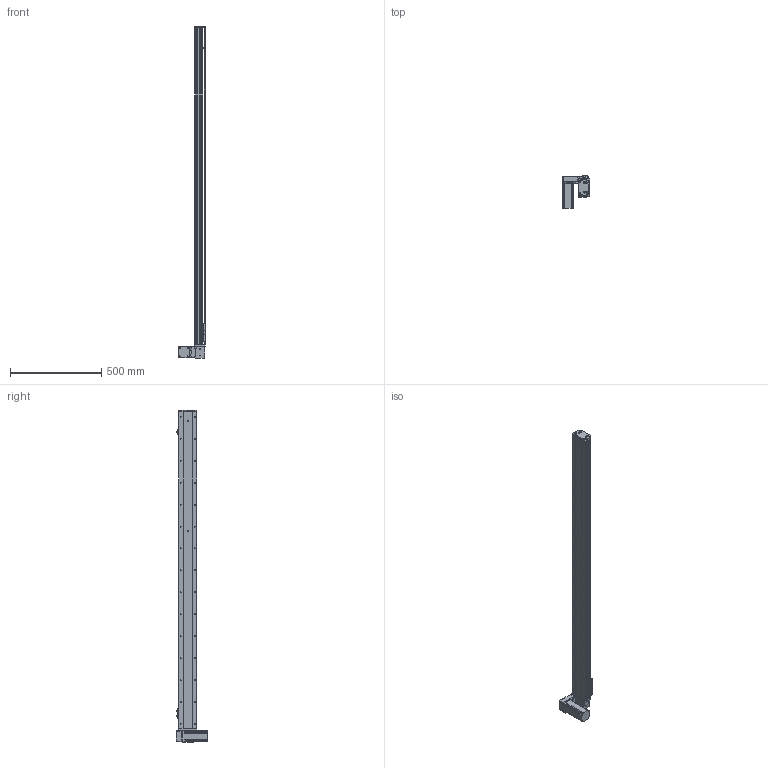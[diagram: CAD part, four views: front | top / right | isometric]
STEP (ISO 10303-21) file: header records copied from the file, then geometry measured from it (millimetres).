
FILE_DESCRIPTION (( 'STEP AP214' ), '1' );
FILE_NAME ('KSD100B-S1550-MLD-CM.STEP', '2019-11-11T03:24:32', ( '微软用户' ), ( '微软中国' ), 'SwSTEP 2.0', 'SolidWorks 2014', '' );
FILE_SCHEMA (( 'AUTOMOTIVE_DESIGN' ));
Length unit declared in the file: millimetre
Products named in the file (12): 悵誘欶奻狟殏; 100宽马达安装板连板上下折丝杆同步带; 台达ECMA－C20604AS伺服电机; U倰嫖萇EEㄜSX672; 覜茼え100遵圉猾敕; 100宽防尘板1550行程-同步带; 100宽马达安装板同步带左; 100宽同步带安装板半封闭; 100宽马达安装板同步带; 100遵傷啣肮祭湍; 100宽底板半封闭同步带1550行程; KSD100B-S1550-MLD-CM
Assembly tree (13 placements, depth 2):
  KSD100B-S1550-MLD-CM
    100宽底板半封闭同步带1550行程
    100遵傷啣肮祭湍
    100宽马达安装板同步带
    100宽同步带安装板半封闭
    100宽马达安装板同步带左
    100宽防尘板1550行程-同步带
    覜茼え100遵圉猾敕
    U倰嫖萇EEㄜSX672  x3
    台达ECMA－C20604AS伺服电机
    100宽马达安装板连板上下折丝杆同步带
    悵誘欶奻狟殏
Bounding box: 148 x 174.7 x 1815 mm (x, y, z)
Volume: 3839667 mm3; surface area: 1306555.4 mm2
Topology: 14 solids, 14 shells, 1631 faces, 4622 edges, 2917 vertices
Faces by surface type: cylinder 845, plane 611, cone 175
Entity records: 59579 total; most frequent: CARTESIAN_POINT 12596, DIRECTION 8058, ORIENTED_EDGE 7800, EDGE_CURVE 3900, AXIS2_PLACEMENT_3D 2965, VERTEX_POINT 2541, LINE 2128, VECTOR 2128
